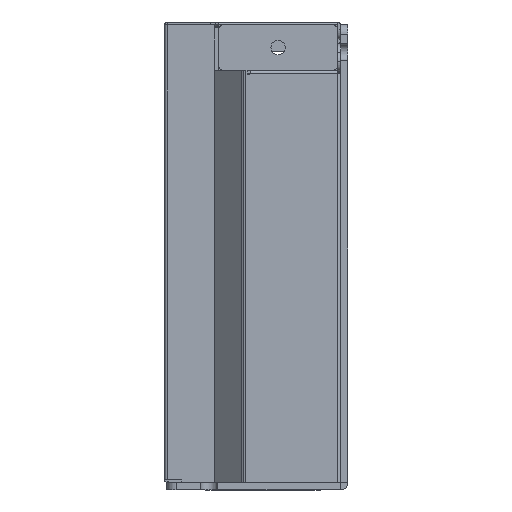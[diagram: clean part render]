
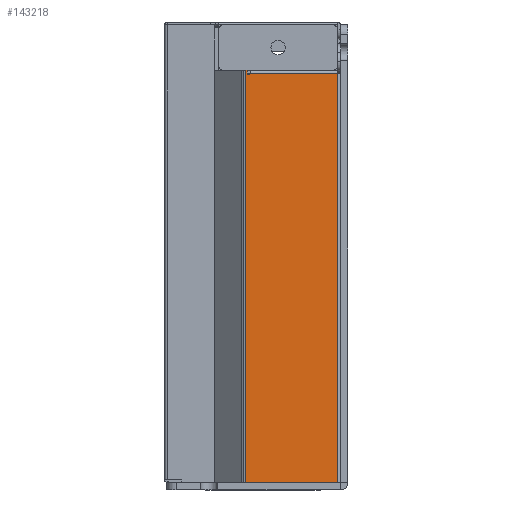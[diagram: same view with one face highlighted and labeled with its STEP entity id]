
A CAD part, left-side view. The second image highlights one B-rep face of the part: STEP entity #143218.
In plain terms, the highlighted planar face has unit normal (-1, 0, 0).
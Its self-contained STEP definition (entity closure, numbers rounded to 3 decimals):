
#72766=DIRECTION('',(0.,-1.,0.));
#72767=VECTOR('',#72766,85.5);
#72768=CARTESIAN_POINT('',(-87.45,47.65,-16.849));
#72769=LINE('',#72768,#72767);
#72788=DIRECTION('',(0.,0.,1.));
#72789=VECTOR('',#72788,19.051);
#72790=CARTESIAN_POINT('',(-87.45,47.65,-35.9));
#72791=LINE('',#72790,#72789);
#72795=DIRECTION('',(0.,0.,-1.));
#72796=VECTOR('',#72795,0.3);
#72797=CARTESIAN_POINT('',(-87.45,-37.85,-16.849));
#72798=LINE('',#72797,#72796);
#72802=DIRECTION('',(0.,1.,0.));
#72803=VECTOR('',#72802,0.6);
#72804=CARTESIAN_POINT('',(-87.45,-37.85,-17.149));
#72805=LINE('',#72804,#72803);
#72809=CARTESIAN_POINT('',(-87.45,-37.25,-17.449));
#72810=DIRECTION('',(-1.,0.,0.));
#72811=DIRECTION('',(0.,0.,1.));
#72812=AXIS2_PLACEMENT_3D('',#72809,#72810,#72811);
#72825=DIRECTION('',(0.,0.,-1.));
#72826=VECTOR('',#72825,18.151);
#72827=CARTESIAN_POINT('',(-87.45,-37.25,-17.749));
#72828=LINE('',#72827,#72826);
#73223=DIRECTION('',(0.,-1.,0.));
#73224=VECTOR('',#73223,84.9);
#73225=CARTESIAN_POINT('',(-87.45,47.65,-35.9));
#73226=LINE('',#73225,#73224);
#107365=CARTESIAN_POINT('',(-87.45,47.65,-35.9));
#107366=CARTESIAN_POINT('',(-87.45,47.65,-16.849));
#107367=VERTEX_POINT('',#107365);
#107368=VERTEX_POINT('',#107366);
#107387=CARTESIAN_POINT('',(-87.45,-37.85,-16.849));
#107388=VERTEX_POINT('',#107387);
#107391=CARTESIAN_POINT('',(-87.45,-37.85,-17.149));
#107392=CARTESIAN_POINT('',(-87.45,-37.25,-17.149));
#107393=VERTEX_POINT('',#107391);
#107394=VERTEX_POINT('',#107392);
#107395=CARTESIAN_POINT('',(-87.45,-37.25,-17.749));
#107396=VERTEX_POINT('',#107395);
#107409=CARTESIAN_POINT('',(-87.45,-37.25,-35.9));
#107410=VERTEX_POINT('',#107409);
#143199=CARTESIAN_POINT('',(-87.45,25.102,-16.6));
#143200=DIRECTION('',(1.,0.,0.));
#143201=DIRECTION('',(0.,-1.,0.));
#143202=AXIS2_PLACEMENT_3D('',#143199,#143200,#143201);
#143203=PLANE('',#143202);
#143205=ORIENTED_EDGE('',*,*,#143204,.T.);
#143207=ORIENTED_EDGE('',*,*,#143206,.F.);
#143209=ORIENTED_EDGE('',*,*,#143208,.T.);
#143210=ORIENTED_EDGE('',*,*,#143192,.T.);
#143211=ORIENTED_EDGE('',*,*,#143096,.T.);
#143213=ORIENTED_EDGE('',*,*,#143212,.T.);
#143215=ORIENTED_EDGE('',*,*,#143214,.T.);
#143216=EDGE_LOOP('',(#143205,#143207,#143209,#143210,#143211,#143213,#143215));
#143217=FACE_OUTER_BOUND('',#143216,.F.);
#72813=CIRCLE('',#72812,0.3);
#143096=EDGE_CURVE('',#107388,#107393,#72798,.T.);
#143192=EDGE_CURVE('',#107368,#107388,#72769,.T.);
#143204=EDGE_CURVE('',#107396,#107410,#72828,.T.);
#143206=EDGE_CURVE('',#107367,#107410,#73226,.T.);
#143208=EDGE_CURVE('',#107367,#107368,#72791,.T.);
#143212=EDGE_CURVE('',#107393,#107394,#72805,.T.);
#143214=EDGE_CURVE('',#107394,#107396,#72813,.T.);
#143218=ADVANCED_FACE('',(#143217),#143203,.F.);
